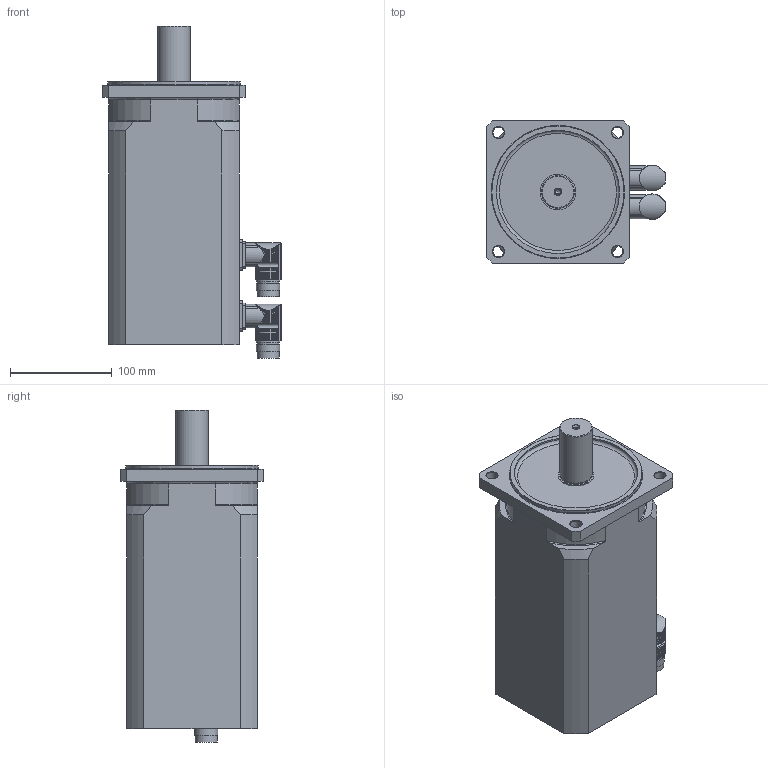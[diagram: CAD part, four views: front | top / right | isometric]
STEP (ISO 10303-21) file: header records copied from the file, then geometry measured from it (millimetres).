
FILE_DESCRIPTION(/* description */ (''),/* implementation_level */ '2;1');
FILE_NAME(/* name */ 'MR 7454-Ux-Nxxx-G01-A0D-MS',/* time_stamp */ '2007-07-13T09:50:00+01:00',/* author */ (''),/* organization */ ('ESR Pollmeier GmbH'),/* preprocessor_version */ 'ST-DEVELOPER v8',/* originating_system */ 'UNIGRAPHICS SOLUTIONS - UNIGRAPHICS 18.0',/* authorisation */ '');
FILE_SCHEMA (('AUTOMOTIVE_DESIGN { 1 2 10303 214 0 1 1 1 }'));
Length unit declared in the file: millimetre
Products named in the file (3): Winkelflanschdose_0; Rotor_SY5_0; MR7454-Ux-Nxxx-G01-A0D-MS_0
Assembly tree (3 placements, depth 2):
  MR7454-Ux-Nxxx-G01-A0D-MS_0
    Rotor_SY5_0
    Winkelflanschdose_0  x2
Bounding box: 175.49 x 140 x 326.15 mm (x, y, z)
Volume: 4182390.7 mm3; surface area: 191479.1 mm2
Topology: 4 solids, 4 shells, 419 faces, 1162 edges, 769 vertices
Faces by surface type: cylinder 319, plane 74, cone 13, torus 13
Full cylindrical faces by diameter (mm): 4.351 x1, 5.5 x1, 11 x4, 16 x2, 21 x2, 21.5 x2, 23 x4, 31.52 x1, 32 x1, 35 x1, 121 x1, 130 x1
Entity records: 8421 total; most frequent: CARTESIAN_POINT 2117, ORIENTED_EDGE 1310, DIRECTION 1248, EDGE_CURVE 655, AXIS2_PLACEMENT_3D 498, VERTEX_POINT 449, EDGE_LOOP 305, ADVANCED_FACE 255
